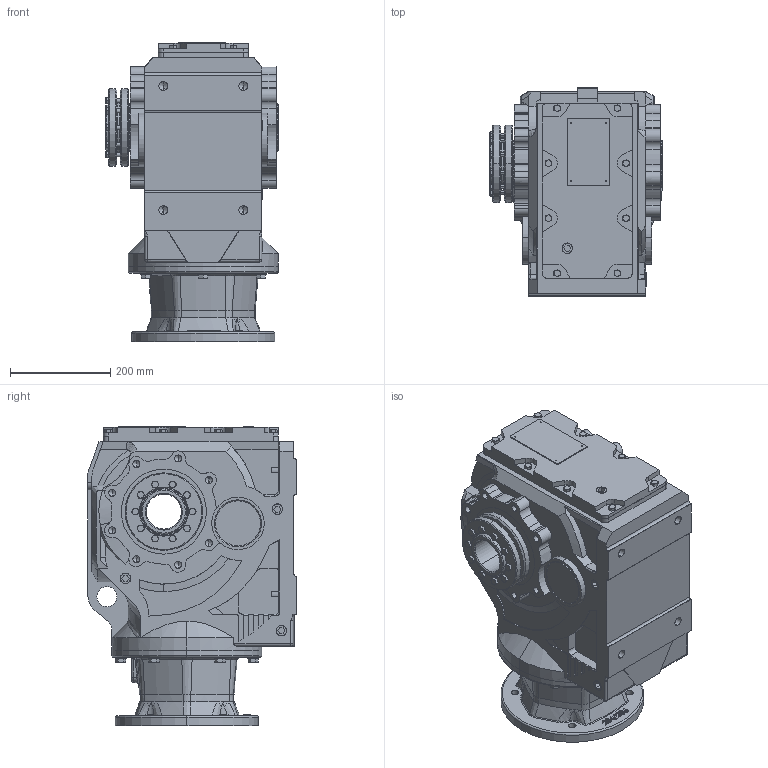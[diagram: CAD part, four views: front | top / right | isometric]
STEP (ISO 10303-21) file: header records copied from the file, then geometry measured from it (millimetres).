
FILE_DESCRIPTION (( 'STEP AP203' ), '1' );
FILE_NAME ('KAN97-284TC-B-POWER LOCK.STEP', '2020-11-25T03:11:06', ( 'Microsoft' ), ( 'Microsoft' ), 'SwSTEP 2.0', 'SolidWorks 2012', '' );
FILE_SCHEMA (( 'CONFIG_CONTROL_DESIGN' ));
Products named in the file (1): KAN97-284TC-B-POWER LOCK
Bounding box: 345 x 417.5 x 599.5 mm (x, y, z)
Volume: 45013637.5 mm3; surface area: 1468853.6 mm2
Topology: 2 solids, 14 shells, 1835 faces, 4587 edges, 2869 vertices
Faces by surface type: plane 682, cylinder 572, cone 367, bspline 177, torus 34, sphere 3
Entity records: 64986 total; most frequent: CARTESIAN_POINT 22168, ORIENTED_EDGE 9012, DIRECTION 8703, EDGE_CURVE 4506, AXIS2_PLACEMENT_3D 3261, VERTEX_POINT 2869, VECTOR 2181, LINE 2181
